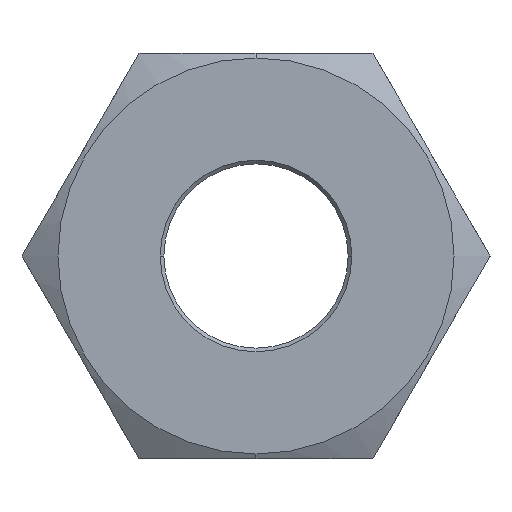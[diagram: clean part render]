
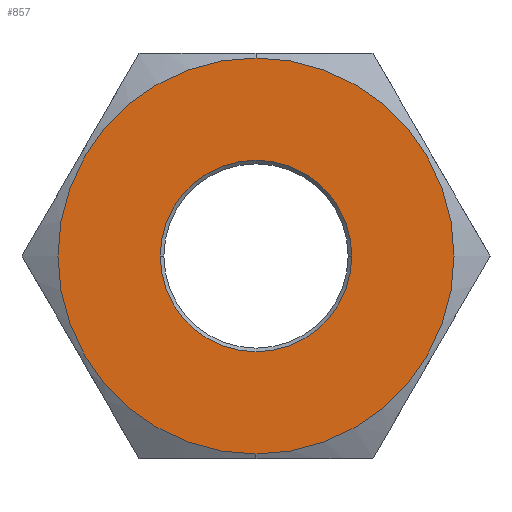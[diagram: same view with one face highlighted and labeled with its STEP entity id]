
A CAD part, left-side view. The second image highlights one B-rep face of the part: STEP entity #857.
In plain terms, the highlighted planar face has unit normal (-1, 0, 0) as drawn and (0, 0, 1) by its records, which use the part's own axes.
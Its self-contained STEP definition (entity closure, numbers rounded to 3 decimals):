
#141=CARTESIAN_POINT('',(10.75,0.0,9.));
#142=VERTEX_POINT('',#141);
#151=CARTESIAN_POINT('',(-10.75,0.,9.0));
#152=VERTEX_POINT('',#151);
#153=CARTESIAN_POINT('',(0.,0.0,9.0));
#154=DIRECTION('',(0.0,0.0,1.0));
#155=DIRECTION('',(1.0,0.0,0.0));
#156=AXIS2_PLACEMENT_3D('',#153,#154,#155);
#157=CIRCLE('',#156,10.75);
#158=EDGE_CURVE('',#152,#142,#157,.T.);
#471=CARTESIAN_POINT('',(0.,5.2,9.));
#472=VERTEX_POINT('',#471);
#480=CARTESIAN_POINT('',(0.,-5.2,9.0));
#481=VERTEX_POINT('',#480);
#488=CARTESIAN_POINT('',(0.,0.,9.0));
#489=DIRECTION('',(0.0,0.0,-1.0));
#490=DIRECTION('',(0.0,1.0,0.0));
#491=AXIS2_PLACEMENT_3D('',#488,#489,#490);
#492=CIRCLE('',#491,5.2);
#493=EDGE_CURVE('',#472,#481,#492,.T.);
#504=CARTESIAN_POINT('',(0.,0.,9.0));
#505=DIRECTION('',(0.0,0.0,-1.0));
#506=DIRECTION('',(0.0,1.0,0.0));
#507=AXIS2_PLACEMENT_3D('',#504,#505,#506);
#508=CIRCLE('',#507,5.2);
#509=EDGE_CURVE('',#481,#472,#508,.T.);
#728=CARTESIAN_POINT('',(0.,0.0,9.0));
#729=DIRECTION('',(0.0,0.0,1.0));
#730=DIRECTION('',(1.0,0.0,0.0));
#731=AXIS2_PLACEMENT_3D('',#728,#729,#730);
#732=CIRCLE('',#731,10.75);
#733=EDGE_CURVE('',#142,#152,#732,.T.);
#844=CARTESIAN_POINT('',(0.,0.,9.0));
#845=DIRECTION('',(0.0,0.0,1.0));
#846=DIRECTION('',(1.0,0.0,0.0));
#847=AXIS2_PLACEMENT_3D('',#844,#845,#846);
#848=PLANE('',#847);
#849=ORIENTED_EDGE('',*,*,#733,.T.);
#850=ORIENTED_EDGE('',*,*,#158,.T.);
#851=EDGE_LOOP('',(#849,#850));
#852=FACE_OUTER_BOUND('',#851,.T.);
#853=ORIENTED_EDGE('',*,*,#493,.T.);
#854=ORIENTED_EDGE('',*,*,#509,.T.);
#855=EDGE_LOOP('',(#853,#854));
#856=FACE_BOUND('',#855,.T.);
#857=ADVANCED_FACE('',(#852,#856),#848,.T.);
